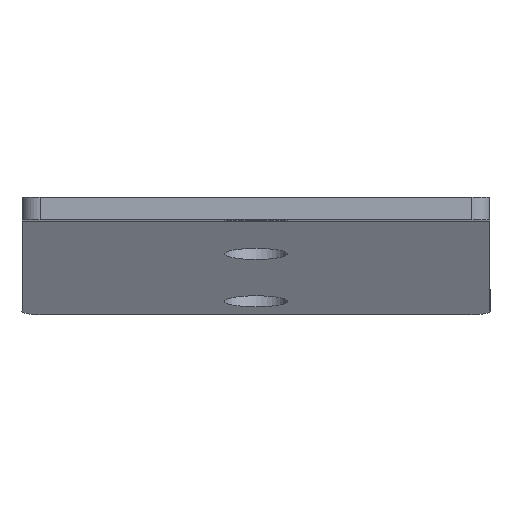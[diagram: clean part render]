
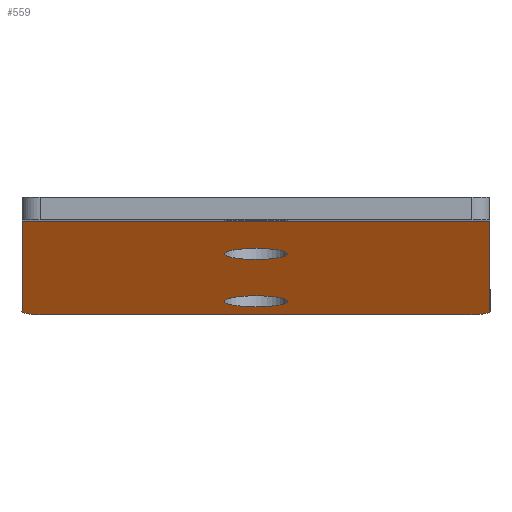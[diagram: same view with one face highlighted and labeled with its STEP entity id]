
A CAD part, top view. The second image highlights one B-rep face of the part: STEP entity #559.
In plain terms, the highlighted planar face has unit normal (0, -0.985, 0.174).
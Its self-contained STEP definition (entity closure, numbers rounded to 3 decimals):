
#14=FACE_BOUND('',#75,.T.);
#15=FACE_BOUND('',#76,.T.);
#25=PLANE('',#618);
#44=FACE_OUTER_BOUND('',#74,.T.);
#74=EDGE_LOOP('',(#374,#375,#376,#377,#378,#379));
#75=EDGE_LOOP('',(#380));
#76=EDGE_LOOP('',(#381));
#114=LINE('',#856,#162);
#117=LINE('',#862,#165);
#118=LINE('',#866,#166);
#119=LINE('',#867,#167);
#162=VECTOR('',#692,10.);
#165=VECTOR('',#697,10.);
#166=VECTOR('',#700,10.);
#167=VECTOR('',#701,10.);
#206=CIRCLE('',#609,3.5);
#208=CIRCLE('',#612,3.5);
#211=CIRCLE('',#616,2.);
#212=CIRCLE('',#619,2.);
#234=VERTEX_POINT('',#834);
#236=VERTEX_POINT('',#840);
#240=VERTEX_POINT('',#849);
#241=VERTEX_POINT('',#851);
#242=VERTEX_POINT('',#855);
#244=VERTEX_POINT('',#861);
#245=VERTEX_POINT('',#863);
#246=VERTEX_POINT('',#865);
#282=EDGE_CURVE('',#234,#234,#206,.T.);
#285=EDGE_CURVE('',#236,#236,#208,.T.);
#290=EDGE_CURVE('',#240,#241,#211,.T.);
#292=EDGE_CURVE('',#242,#241,#114,.T.);
#295=EDGE_CURVE('',#240,#244,#117,.T.);
#296=EDGE_CURVE('',#245,#244,#212,.T.);
#297=EDGE_CURVE('',#246,#245,#118,.T.);
#298=EDGE_CURVE('',#246,#242,#119,.T.);
#374=ORIENTED_EDGE('',*,*,#290,.F.);
#375=ORIENTED_EDGE('',*,*,#295,.T.);
#376=ORIENTED_EDGE('',*,*,#296,.F.);
#377=ORIENTED_EDGE('',*,*,#297,.F.);
#378=ORIENTED_EDGE('',*,*,#298,.T.);
#379=ORIENTED_EDGE('',*,*,#292,.T.);
#380=ORIENTED_EDGE('',*,*,#282,.T.);
#381=ORIENTED_EDGE('',*,*,#285,.T.);
#559=ADVANCED_FACE('',(#44,#14,#15),#25,.F.);
#609=AXIS2_PLACEMENT_3D('',#835,#670,#671);
#612=AXIS2_PLACEMENT_3D('',#841,#677,#678);
#616=AXIS2_PLACEMENT_3D('',#852,#687,#688);
#618=AXIS2_PLACEMENT_3D('',#860,#695,#696);
#619=AXIS2_PLACEMENT_3D('',#864,#698,#699);
#670=DIRECTION('center_axis',(0.,0.985,-0.174));
#671=DIRECTION('ref_axis',(1.,0.,0.));
#677=DIRECTION('center_axis',(0.,0.985,-0.174));
#678=DIRECTION('ref_axis',(1.,0.,0.));
#687=DIRECTION('center_axis',(0.,0.985,-0.174));
#688=DIRECTION('ref_axis',(-0.707,-0.123,-0.696));
#692=DIRECTION('',(0.,-0.174,-0.985));
#695=DIRECTION('center_axis',(0.,0.985,-0.174));
#696=DIRECTION('ref_axis',(0.,0.174,0.985));
#697=DIRECTION('',(1.,0.,0.));
#698=DIRECTION('center_axis',(0.,0.985,-0.174));
#699=DIRECTION('ref_axis',(0.707,-0.123,-0.696));
#700=DIRECTION('',(0.,-0.174,-0.985));
#701=DIRECTION('',(-1.,0.,0.));
#834=CARTESIAN_POINT('',(-3.5,-3.609,-64.997));
#835=CARTESIAN_POINT('Origin',(0.,-3.609,-64.997));
#840=CARTESIAN_POINT('',(-3.5,-8.818,-94.541));
#841=CARTESIAN_POINT('Origin',(0.,-8.818,-94.541));
#849=CARTESIAN_POINT('',(-24.,-10.294,-102.912));
#851=CARTESIAN_POINT('',(-26.,-9.947,-100.942));
#852=CARTESIAN_POINT('Origin',(-24.,-9.947,-100.942));
#855=CARTESIAN_POINT('',(-26.,-0.038,-44.747));
#856=CARTESIAN_POINT('',(-26.,0.071,-44.128));
#860=CARTESIAN_POINT('Origin',(0.,-5.111,-73.52));
#861=CARTESIAN_POINT('',(24.,-10.294,-102.912));
#862=CARTESIAN_POINT('',(-26.,-10.294,-102.912));
#863=CARTESIAN_POINT('',(26.,-9.947,-100.942));
#864=CARTESIAN_POINT('Origin',(24.,-9.947,-100.942));
#865=CARTESIAN_POINT('',(26.,-0.038,-44.747));
#866=CARTESIAN_POINT('',(26.,0.071,-44.128));
#867=CARTESIAN_POINT('',(0.,-0.038,-44.747));
